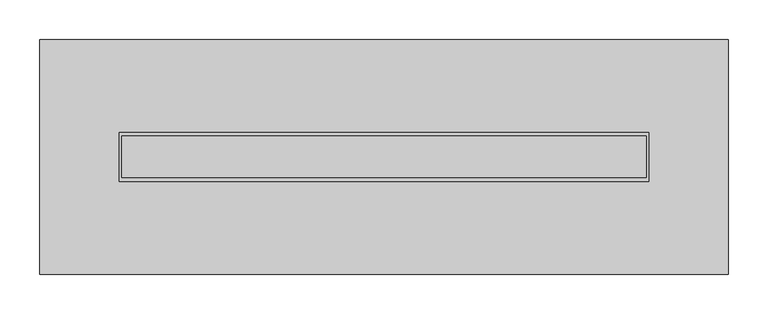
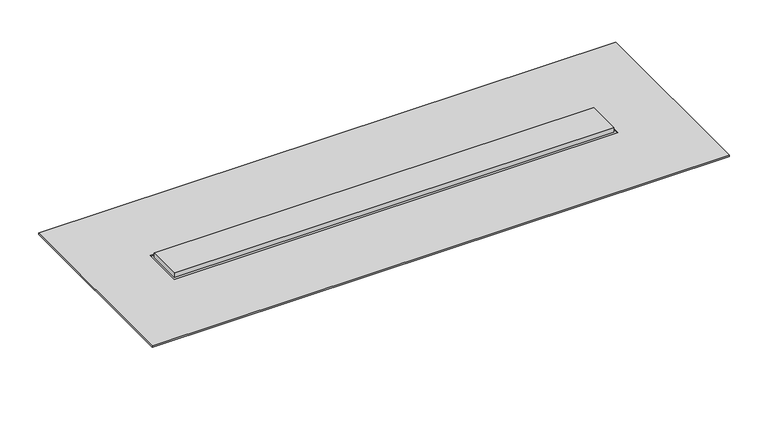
"""IFC4 building model written with IfcOpenShell, lengths in millimetres: sanitary terminal geometry, NLRS_PF_52_UN_Compact TAF Modulo_Easydrain : Compact TAF Modulo Glas wit glans."""

from ifc_helpers import new_model, si_unit, frame, origin, place, context, project, spatial, polyline, circle_curve, ellipse_curve, outline, extrude, source, transform, mapped, element, save
from ifc_brep_helpers import plane_surface, cylinder_surface, advanced_brep


def sanitary_terminal_e6825e24(model_context):
    return source(origin(), model_context, "Body", "SolidModel", [
        extrude(outline(polyline([(429.5, 26.0), (429.5, -26.0), (-229.5, -26.0), (-229.5, 26.0), (429.5, 26.0)])), frame((0.0, 0.0, -7.0), z_axis=(0.0, 0.0, 1.0), x_axis=(1.0, 0.0, 0.0)), (0.0, 0.0, 1.0), 7.0),
        extrude(outline(polyline([(532.5, 147.5), (532.5, -147.5), (-332.5, -147.5), (-332.5, 147.5), (532.5, 147.5)]), holes=[polyline([(432.5, 31.0), (-232.5, 31.0), (-232.5, -31.0), (432.5, -31.0), (432.5, 31.0)])]), frame((0.0, 0.0, -8.0), z_axis=(0.0, 0.0, 1.0), x_axis=(1.0, 0.0, 0.0)), (0.0, 0.0, 1.0), 2.0),
        advanced_brep(
        [(-232.5, -31.0, -25.0), (-10.0, -31.0, -27.0), (-10.0, -31.0, -70.0), (210.0, -31.0, -70.0), (210.0, -31.0, -27.0), (432.5, -31.0, -25.0), (432.5, -31.0, -9.0), (-232.5, -31.0, -9.0), (100.0, -31.0, -25.0), (100.0, -31.0, -65.0), (432.5, 31.0, -25.0), (210.0, 31.0, -27.0), (210.0, 31.0, -70.0), (-10.0, 31.0, -70.0), (-10.0, 31.0, -27.0), (-232.5, 31.0, -25.0), (-232.5, 31.0, -9.0), (432.5, 31.0, -9.0), (-212.5, 0.0, -25.1797753), (-172.5, 0.0, -25.5393258), (432.5, 30.0, -9.0), (432.5, -30.0, -9.0), (450.0, 47.5, -7.0), (-250.0, 47.5, -7.0), (-250.0, -64.5, -7.0), (450.0, -64.5, -7.0), (-232.5, -30.0, -9.0), (-232.5, 30.0, -9.0), (372.5, 0.0, -25.5393258), (412.5, 0.0, -25.1797753), (100.0, -50.0, -25.0), (100.0, -50.0, -65.0), (450.0, 47.5, -9.0), (450.0, -64.5, -9.0), (-250.0, -64.5, -9.0), (-250.0, 47.5, -9.0), (-212.5, 0.0, -70.0), (-172.5, 0.0, -70.0), (372.5, 0.0, -70.0), (412.5, 0.0, -70.0)],
        [
            (0, 1),
            (1, 2),
            (2, 3),
            (3, 4),
            (4, 5),
            (5, 6),
            (6, 7),
            (7, 0),
            (8, 9, circle_curve(frame((100.0, -31.0, -45.0), z_axis=(0.0, 1.0, 0.0), x_axis=(0.0, 0.0, -1.0)), 20.0)),
            (9, 8, circle_curve(frame((100.0, -31.0, -45.0), z_axis=(0.0, 1.0, 0.0), x_axis=(0.0, 0.0, -1.0)), 20.0)),
            (10, 11),
            (11, 12),
            (12, 13),
            (13, 14),
            (14, 15),
            (15, 16),
            (16, 17),
            (17, 10),
            (0, 15),
            (14, 1),
            (18, 19, ellipse_curve(frame((-192.5, 0.0, -25.3595506), z_axis=(0.00898840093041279, 0.0, 0.9999596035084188), x_axis=(-0.9999596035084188, 0.0, 0.008988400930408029)), 20.000808, 20.0)),
            (19, 18, ellipse_curve(frame((-192.5, 0.0, -25.3595506), z_axis=(0.00898840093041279, 0.0, 0.9999596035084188), x_axis=(-0.9999596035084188, 0.0, 0.008988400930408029)), 20.000808, 20.0)),
            (5, 10),
            (17, 20),
            (20, 21),
            (21, 6),
            (22, 23),
            (23, 24),
            (24, 25),
            (25, 22),
            (7, 26),
            (26, 27),
            (27, 16),
            (13, 2),
            (12, 3),
            (11, 4),
            (28, 29, ellipse_curve(frame((392.5, 0.0, -25.3595506), z_axis=(-0.00898840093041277, 0.0, 0.9999596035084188), x_axis=(0.9999596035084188, 0.0, 0.00898840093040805)), 20.000808, 20.0)),
            (29, 28, ellipse_curve(frame((392.5, 0.0, -25.3595506), z_axis=(-0.00898840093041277, 0.0, 0.9999596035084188), x_axis=(0.9999596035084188, 0.0, 0.00898840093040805)), 20.000808, 20.0)),
            (30, 31, circle_curve(frame((100.0, -50.0, -45.0), z_axis=(0.0, -1.0, 0.0), x_axis=(0.0, 0.0, -1.0)), 20.0)),
            (31, 30, circle_curve(frame((100.0, -50.0, -45.0), z_axis=(0.0, -1.0, 0.0), x_axis=(0.0, 0.0, -1.0)), 20.0)),
            (31, 9),
            (8, 30),
            (32, 33),
            (33, 34),
            (34, 35),
            (35, 32),
            (22, 32),
            (35, 23),
            (34, 24),
            (33, 25),
            (36, 37, circle_curve(frame((-192.5, 0.0, -70.0), z_axis=(0.0, 0.0, -1.0), x_axis=(1.0, 0.0, 0.0)), 20.0)),
            (37, 36, circle_curve(frame((-192.5, 0.0, -70.0), z_axis=(0.0, 0.0, -1.0), x_axis=(1.0, 0.0, 0.0)), 20.0)),
            (38, 39, circle_curve(frame((392.5, 0.0, -70.0), z_axis=(0.0, 0.0, -1.0), x_axis=(1.0, 0.0, 0.0)), 20.0)),
            (39, 38, circle_curve(frame((392.5, 0.0, -70.0), z_axis=(0.0, 0.0, -1.0), x_axis=(1.0, 0.0, 0.0)), 20.0)),
            (37, 19),
            (18, 36),
            (39, 29),
            (28, 38),
        ],
        [
            plane_surface(frame((-232.5, -31.0, -25.0), z_axis=(0.0, -1.0, 0.0), x_axis=(0.9999596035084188, 0.0, -0.00898840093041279))),
            plane_surface(frame((-232.5, 31.0, -25.0), z_axis=(0.0, 1.0, 0.0), x_axis=(-0.9999596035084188, 0.0, 0.00898840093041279))),
            plane_surface(frame((-232.5, -31.0, -25.0), z_axis=(-0.00898840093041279, 0.0, -0.9999596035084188), x_axis=(0.0, 1.0, 0.0))),
            plane_surface(frame((432.5, -31.0, -25.0), z_axis=(1.0, 0.0, 0.0), x_axis=(0.0, 1.0, 0.0))),
            plane_surface(frame((432.5, -31.0, -7.0), z_axis=(0.0, 0.0, 1.0), x_axis=(0.0, 1.0, 0.0))),
            plane_surface(frame((-232.5, -31.0, -7.0), z_axis=(-1.0, 0.0, 0.0), x_axis=(0.0, 1.0, 0.0))),
            plane_surface(frame((-10.0, -31.0, -27.0), z_axis=(-1.0, 0.0, 0.0), x_axis=(0.0, 1.0, 0.0))),
            plane_surface(frame((-10.0, -31.0, -70.0), z_axis=(0.0, 0.0, -1.0), x_axis=(0.0, 1.0, 0.0))),
            plane_surface(frame((210.0, -31.0, -70.0), z_axis=(1.0, 0.0, 0.0), x_axis=(0.0, 1.0, 0.0))),
            plane_surface(frame((210.0, -31.0, -27.0), z_axis=(0.00898840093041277, 0.0, -0.9999596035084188), x_axis=(0.0, 1.0, 0.0))),
            plane_surface(frame((100.0, -50.0, -45.0), z_axis=(0.0, -1.0, 0.0), x_axis=(1.0, 0.0, 0.0))),
            cylinder_surface(frame((100.0, 0.0, -45.0), z_axis=(0.0, 1.0, 0.0), x_axis=(0.0, 0.0, -1.0)), 20.0),
            plane_surface(frame((432.5, 30.0, -9.0), z_axis=(0.0, 0.0, -1.0), x_axis=(0.0, 1.0, 0.0))),
            plane_surface(frame((450.0, 47.5, -7.0), z_axis=(0.0, 1.0, 0.0), x_axis=(0.0, 0.0, -1.0))),
            plane_surface(frame((-250.0, 47.5, -7.0), z_axis=(-1.0, 0.0, 0.0), x_axis=(0.0, 0.0, -1.0))),
            plane_surface(frame((-250.0, -64.5, -7.0), z_axis=(0.0, -1.0, 0.0), x_axis=(0.0, 0.0, -1.0))),
            plane_surface(frame((450.0, -64.5, -7.0), z_axis=(1.0, 0.0, 0.0), x_axis=(0.0, 0.0, -1.0))),
            plane_surface(frame((-172.5, 0.0, -70.0), z_axis=(0.0, 0.0, -1.0), x_axis=(0.0, -1.0, 0.0))),
            cylinder_surface(frame((-192.5, 0.0, -70.0), z_axis=(0.0, 0.0, 1.0), x_axis=(1.0, 0.0, 0.0)), 20.0),
            cylinder_surface(frame((392.5, 0.0, 0.0), z_axis=(0.0, 0.0, 1.0), x_axis=(1.0, 0.0, 0.0)), 20.0),
        ],
        [
            (0, [[1, 2, 3, 4, 5, 6, 7, 8], [9, 10]]),
            (1, [[11, 12, 13, 14, 15, 16, 17, 18]]),
            (2, [[-1, 19, -15, 20], [21, 22]]),
            (3, [[23, -18, 24, 25, 26, -6]]),
            (4, [[27, 28, 29, 30]]),
            (5, [[-19, -8, 31, 32, 33, -16]]),
            (6, [[-2, -20, -14, 34]]),
            (7, [[-3, -34, -13, 35]]),
            (8, [[-4, -35, -12, 36]]),
            (9, [[-5, -36, -11, -23], [37, 38]]),
            (10, [[39, 40]]),
            (11, [[-40, 41, -9, 42]]),
            (11, [[-39, -42, -10, -41]]),
            (12, [[43, 44, 45, 46], [-7, -26, -25, -24, -17, -33, -32, -31]]),
            (13, [[-27, 47, -46, 48]]),
            (14, [[-28, -48, -45, 49]]),
            (15, [[-29, -49, -44, 50]]),
            (16, [[-30, -50, -43, -47]]),
            (17, [[51, 52]]),
            (17, [[53, 54]]),
            (18, [[-52, 55, -21, 56]]),
            (18, [[-51, -56, -22, -55]]),
            (19, [[-54, 57, -37, 58]]),
            (19, [[-53, -58, -38, -57]]),
        ],
    ),
    ])


if __name__ == "__main__":
    model = new_model("IFC4")
    model_context = context("Model", 3, world=origin())
    ifc_project = project(units=[si_unit("LENGTHUNIT", "METRE", prefix="MILLI")], contexts=[model_context])
    site = spatial("IfcSite", under=ifc_project)
    building = spatial("IfcBuilding", under=site)
    placement = place(None, origin())
    sanitary_terminal_shape = sanitary_terminal_e6825e24(model_context)
    element("IfcSanitaryTerminal", 1, ObjectType="NLRS_PF_52_UN_Compact TAF Modulo_Easydrain : Compact TAF Modulo Glas wit glans", at=placement, inside=building, context=model_context, shape_type="MappedRepresentation", body=[
        mapped(sanitary_terminal_shape, transform((0.0, 0.0, 0.0), x_axis=(1.0, 0.0, 0.0), y_axis=(0.0, 1.0, 0.0), z_axis=(0.0, 0.0, 1.0))),
    ])
    save(model, "model.ifc")
